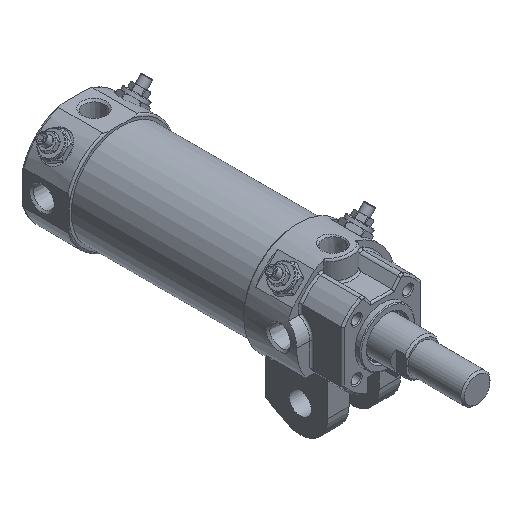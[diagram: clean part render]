
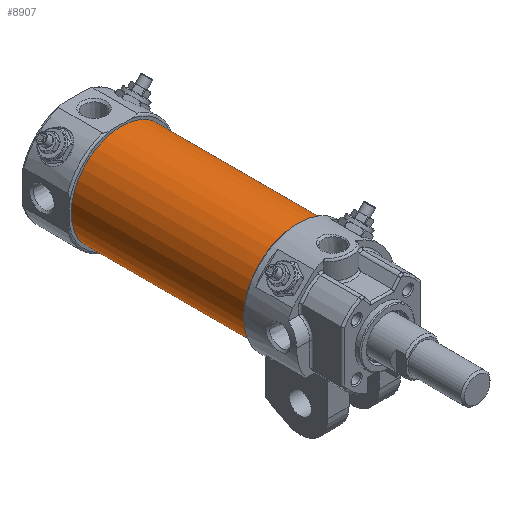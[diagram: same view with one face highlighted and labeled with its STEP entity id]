
A CAD part, isometric view. The second image highlights one B-rep face of the part: STEP entity #8907.
In plain terms, the highlighted cylindrical face has radius 27.5 mm (diameter 55 mm), a full revolution.
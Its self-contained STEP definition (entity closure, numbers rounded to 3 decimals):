
#996=CARTESIAN_POINT('',(27.5,146.0,0.));
#997=VERTEX_POINT('',#996);
#998=CARTESIAN_POINT('',(0.,146.0,0.));
#999=DIRECTION('',(0.0,-1.0,0.0));
#1000=DIRECTION('',(-1.0,0.0,0.0));
#1001=AXIS2_PLACEMENT_3D('',#998,#999,#1000);
#1002=CIRCLE('',#1001,27.5);
#1003=EDGE_CURVE('',#997,#997,#1002,.T.);
#8884=CARTESIAN_POINT('',(27.5,50.,0.));
#8885=VERTEX_POINT('',#8884);
#8886=CARTESIAN_POINT('',(0.,50.,0.));
#8887=DIRECTION('',(0.0,-1.0,0.0));
#8888=DIRECTION('',(-1.0,0.0,0.0));
#8889=AXIS2_PLACEMENT_3D('',#8886,#8887,#8888);
#8890=CIRCLE('',#8889,27.5);
#8891=EDGE_CURVE('',#8885,#8885,#8890,.T.);
#8896=CARTESIAN_POINT('',(0.,50.,0.));
#8897=DIRECTION('',(0.0,1.0,0.));
#8898=DIRECTION('',(-1.0,0.0,0.0));
#8899=AXIS2_PLACEMENT_3D('',#8896,#8897,#8898);
#8900=CYLINDRICAL_SURFACE('',#8899,27.5);
#8901=ORIENTED_EDGE('',*,*,#1003,.T.);
#8902=EDGE_LOOP('',(#8901));
#8903=FACE_OUTER_BOUND('',#8902,.T.);
#8904=ORIENTED_EDGE('',*,*,#8891,.F.);
#8905=EDGE_LOOP('',(#8904));
#8906=FACE_BOUND('',#8905,.T.);
#8907=ADVANCED_FACE('',(#8903,#8906),#8900,.T.);
